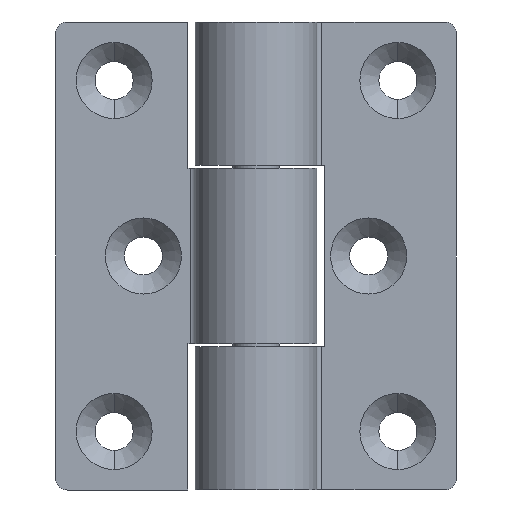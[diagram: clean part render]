
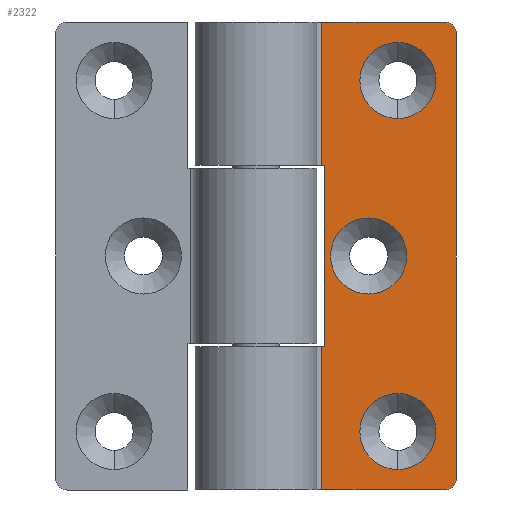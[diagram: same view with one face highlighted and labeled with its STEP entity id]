
A CAD part, front view. The second image highlights one B-rep face of the part: STEP entity #2322.
In plain terms, the highlighted planar face has unit normal (0, -1, 0).
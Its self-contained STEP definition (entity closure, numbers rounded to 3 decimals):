
#19 = DIRECTION ( 'NONE',  ( 0., 0., -1. ) ) ;
#39 = ORIENTED_EDGE ( 'NONE', *, *, #250, .T. ) ;
#70 = CARTESIAN_POINT ( 'NONE',  ( 24.25, 2.9, 16.5 ) ) ;
#91 = CIRCLE ( 'NONE', #2415, 6.5 ) ;
#107 = VERTEX_POINT ( 'NONE', #2433 ) ;
#132 = VECTOR ( 'NONE', #1941, 1000. ) ;
#143 = CARTESIAN_POINT ( 'NONE',  ( 11.241, 2.9, 0. ) ) ;
#164 = ORIENTED_EDGE ( 'NONE', *, *, #1760, .F. ) ;
#175 = EDGE_CURVE ( 'NONE', #963, #607, #776, .T. ) ;
#228 = VERTEX_POINT ( 'NONE', #1623 ) ;
#231 = DIRECTION ( 'NONE',  ( 0., 0., 1. ) ) ;
#250 = EDGE_CURVE ( 'NONE', #790, #1530, #1929, .T. ) ;
#270 = VECTOR ( 'NONE', #19, 1000. ) ;
#275 = LINE ( 'NONE', #1095, #524 ) ;
#279 = VERTEX_POINT ( 'NONE', #1888 ) ;
#280 = CARTESIAN_POINT ( 'NONE',  ( 19.25, 2.9, 40. ) ) ;
#292 = DIRECTION ( 'NONE',  ( 0., 1., 0. ) ) ;
#322 = EDGE_CURVE ( 'NONE', #1433, #963, #275, .T. ) ;
#325 = VERTEX_POINT ( 'NONE', #70 ) ;
#333 = EDGE_CURVE ( 'NONE', #2606, #1767, #2488, .T. ) ;
#407 = ORIENTED_EDGE ( 'NONE', *, *, #175, .T. ) ;
#413 = ORIENTED_EDGE ( 'NONE', *, *, #1618, .F. ) ;
#414 = EDGE_LOOP ( 'NONE', ( #1665, #1574 ) ) ;
#449 = FACE_BOUND ( 'NONE', #1182, .T. ) ;
#463 = LINE ( 'NONE', #2294, #1113 ) ;
#491 = CARTESIAN_POINT ( 'NONE',  ( 24.25, 2.9, 70. ) ) ;
#494 = PLANE ( 'NONE',  #1162 ) ;
#515 = CARTESIAN_POINT ( 'NONE',  ( 32.25, 2.9, 0. ) ) ;
#524 = VECTOR ( 'NONE', #1904, 1000. ) ;
#529 = CARTESIAN_POINT ( 'NONE',  ( 11.241, 2.9, 0. ) ) ;
#600 = AXIS2_PLACEMENT_3D ( 'NONE', #826, #656, #231 ) ;
#601 = CARTESIAN_POINT ( 'NONE',  ( 32.25, 2.9, 78. ) ) ;
#607 = VERTEX_POINT ( 'NONE', #660 ) ;
#627 = CARTESIAN_POINT ( 'NONE',  ( 34.25, 2.9, 55.5 ) ) ;
#640 = CARTESIAN_POINT ( 'NONE',  ( 11.241, 2.9, 0. ) ) ;
#644 = CARTESIAN_POINT ( 'NONE',  ( 24.25, 2.9, 63.5 ) ) ;
#655 = CARTESIAN_POINT ( 'NONE',  ( 34.25, 2.9, 80. ) ) ;
#656 = DIRECTION ( 'NONE',  ( 0., -1., 0. ) ) ;
#660 = CARTESIAN_POINT ( 'NONE',  ( 11.241, 2.9, 24.5 ) ) ;
#696 = DIRECTION ( 'NONE',  ( 0., 0., -1. ) ) ;
#715 = DIRECTION ( 'NONE',  ( 0., 0., -1. ) ) ;
#721 = CIRCLE ( 'NONE', #2581, 6.5 ) ;
#750 = EDGE_CURVE ( 'NONE', #2004, #279, #2350, .T. ) ;
#752 = DIRECTION ( 'NONE',  ( 0., -1., 0. ) ) ;
#754 = EDGE_CURVE ( 'NONE', #1767, #1433, #2447, .T. ) ;
#774 = CARTESIAN_POINT ( 'NONE',  ( 34.25, 2.9, 78. ) ) ;
#776 = LINE ( 'NONE', #2003, #2423 ) ;
#777 = ORIENTED_EDGE ( 'NONE', *, *, #871, .F. ) ;
#790 = VERTEX_POINT ( 'NONE', #515 ) ;
#810 = CARTESIAN_POINT ( 'NONE',  ( 11.65, 2.9, 55.5 ) ) ;
#826 = CARTESIAN_POINT ( 'NONE',  ( 32.25, 2.9, 2. ) ) ;
#847 = EDGE_CURVE ( 'NONE', #279, #2004, #2182, .T. ) ;
#871 = EDGE_CURVE ( 'NONE', #107, #954, #994, .T. ) ;
#954 = VERTEX_POINT ( 'NONE', #1525 ) ;
#963 = VERTEX_POINT ( 'NONE', #1713 ) ;
#994 = CIRCLE ( 'NONE', #2469, 6.5 ) ;
#1050 = VERTEX_POINT ( 'NONE', #143 ) ;
#1054 = VERTEX_POINT ( 'NONE', #774 ) ;
#1070 = CARTESIAN_POINT ( 'NONE',  ( 34.25, 2.9, 80. ) ) ;
#1095 = CARTESIAN_POINT ( 'NONE',  ( 11.65, 2.9, 80. ) ) ;
#1101 = DIRECTION ( 'NONE',  ( 0., -1., 0. ) ) ;
#1110 = DIRECTION ( 'NONE',  ( 0., 0., 1. ) ) ;
#1113 = VECTOR ( 'NONE', #1298, 1000. ) ;
#1124 = EDGE_CURVE ( 'NONE', #1054, #228, #1400, .T. ) ;
#1133 = LINE ( 'NONE', #529, #132 ) ;
#1162 = AXIS2_PLACEMENT_3D ( 'NONE', #1070, #292, #1110 ) ;
#1182 = EDGE_LOOP ( 'NONE', ( #164, #2316 ) ) ;
#1231 = LINE ( 'NONE', #655, #2622 ) ;
#1271 = EDGE_CURVE ( 'NONE', #2606, #228, #1231, .T. ) ;
#1298 = DIRECTION ( 'NONE',  ( 1., 0., 0. ) ) ;
#1306 = ORIENTED_EDGE ( 'NONE', *, *, #333, .T. ) ;
#1340 = ORIENTED_EDGE ( 'NONE', *, *, #1271, .F. ) ;
#1345 = AXIS2_PLACEMENT_3D ( 'NONE', #2358, #2566, #2153 ) ;
#1357 = ORIENTED_EDGE ( 'NONE', *, *, #1607, .T. ) ;
#1367 = AXIS2_PLACEMENT_3D ( 'NONE', #2352, #752, #715 ) ;
#1400 = CIRCLE ( 'NONE', #1789, 2. ) ;
#1433 = VERTEX_POINT ( 'NONE', #810 ) ;
#1448 = DIRECTION ( 'NONE',  ( 1., 0., 0. ) ) ;
#1477 = ORIENTED_EDGE ( 'NONE', *, *, #1124, .T. ) ;
#1509 = DIRECTION ( 'NONE',  ( 0., -1., 0. ) ) ;
#1514 = FACE_BOUND ( 'NONE', #414, .T. ) ;
#1525 = CARTESIAN_POINT ( 'NONE',  ( 19.25, 2.9, 33.5 ) ) ;
#1530 = VERTEX_POINT ( 'NONE', #2412 ) ;
#1559 = AXIS2_PLACEMENT_3D ( 'NONE', #491, #1509, #2112 ) ;
#1574 = ORIENTED_EDGE ( 'NONE', *, *, #847, .F. ) ;
#1576 = CARTESIAN_POINT ( 'NONE',  ( 11.241, 2.9, 55.5 ) ) ;
#1607 = EDGE_CURVE ( 'NONE', #1050, #790, #463, .T. ) ;
#1618 = EDGE_CURVE ( 'NONE', #954, #107, #721, .T. ) ;
#1623 = CARTESIAN_POINT ( 'NONE',  ( 32.25, 2.9, 80. ) ) ;
#1660 = CIRCLE ( 'NONE', #1367, 6.5 ) ;
#1665 = ORIENTED_EDGE ( 'NONE', *, *, #750, .F. ) ;
#1713 = CARTESIAN_POINT ( 'NONE',  ( 11.65, 2.9, 24.5 ) ) ;
#1734 = ORIENTED_EDGE ( 'NONE', *, *, #2417, .F. ) ;
#1741 = CARTESIAN_POINT ( 'NONE',  ( 34.25, 2.9, 80. ) ) ;
#1760 = EDGE_CURVE ( 'NONE', #1800, #325, #1660, .T. ) ;
#1767 = VERTEX_POINT ( 'NONE', #1576 ) ;
#1789 = AXIS2_PLACEMENT_3D ( 'NONE', #601, #2025, #2395 ) ;
#1800 = VERTEX_POINT ( 'NONE', #2179 ) ;
#1858 = DIRECTION ( 'NONE',  ( 1., 0., 0. ) ) ;
#1888 = CARTESIAN_POINT ( 'NONE',  ( 24.25, 2.9, 76.5 ) ) ;
#1904 = DIRECTION ( 'NONE',  ( 0., 0., -1. ) ) ;
#1910 = DIRECTION ( 'NONE',  ( 0., 0., -1. ) ) ;
#1929 = CIRCLE ( 'NONE', #600, 2. ) ;
#1941 = DIRECTION ( 'NONE',  ( 0., 0., -1. ) ) ;
#2003 = CARTESIAN_POINT ( 'NONE',  ( 34.25, 2.9, 24.5 ) ) ;
#2004 = VERTEX_POINT ( 'NONE', #644 ) ;
#2025 = DIRECTION ( 'NONE',  ( 0., -1., 0. ) ) ;
#2075 = DIRECTION ( 'NONE',  ( 0., -1., 0. ) ) ;
#2112 = DIRECTION ( 'NONE',  ( 0., 0., -1. ) ) ;
#2153 = DIRECTION ( 'NONE',  ( 0., 0., -1. ) ) ;
#2173 = EDGE_CURVE ( 'NONE', #607, #1050, #1133, .T. ) ;
#2179 = CARTESIAN_POINT ( 'NONE',  ( 24.25, 2.9, 3.5 ) ) ;
#2182 = CIRCLE ( 'NONE', #1345, 6.5 ) ;
#2189 = DIRECTION ( 'NONE',  ( 0., -1., 0. ) ) ;
#2197 = DIRECTION ( 'NONE',  ( -1., 0., 0. ) ) ;
#2221 = VECTOR ( 'NONE', #1448, 1000. ) ;
#2249 = VECTOR ( 'NONE', #2533, 1000. ) ;
#2269 = CARTESIAN_POINT ( 'NONE',  ( 24.25, 2.9, 10. ) ) ;
#2274 = EDGE_LOOP ( 'NONE', ( #413, #777 ) ) ;
#2281 = DIRECTION ( 'NONE',  ( 0., 0., -1. ) ) ;
#2294 = CARTESIAN_POINT ( 'NONE',  ( 34.25, 2.9, 0. ) ) ;
#2309 = FACE_OUTER_BOUND ( 'NONE', #2414, .T. ) ;
#2316 = ORIENTED_EDGE ( 'NONE', *, *, #2547, .F. ) ;
#2322 = ADVANCED_FACE ( 'NONE', ( #449, #2482, #1514, #2309 ), #494, .F. ) ;
#2350 = CIRCLE ( 'NONE', #1559, 6.5 ) ;
#2352 = CARTESIAN_POINT ( 'NONE',  ( 24.25, 2.9, 10. ) ) ;
#2354 = CARTESIAN_POINT ( 'NONE',  ( 11.241, 2.9, 80. ) ) ;
#2358 = CARTESIAN_POINT ( 'NONE',  ( 24.25, 2.9, 70. ) ) ;
#2362 = LINE ( 'NONE', #1741, #2249 ) ;
#2395 = DIRECTION ( 'NONE',  ( 0., 0., 1. ) ) ;
#2412 = CARTESIAN_POINT ( 'NONE',  ( 34.25, 2.9, 2. ) ) ;
#2414 = EDGE_LOOP ( 'NONE', ( #1734, #1477, #1340, #1306, #2542, #2616, #407, #2614, #1357, #39 ) ) ;
#2415 = AXIS2_PLACEMENT_3D ( 'NONE', #2269, #2075, #2281 ) ;
#2417 = EDGE_CURVE ( 'NONE', #1054, #1530, #2362, .T. ) ;
#2418 = CARTESIAN_POINT ( 'NONE',  ( 19.25, 2.9, 40. ) ) ;
#2423 = VECTOR ( 'NONE', #2197, 1000. ) ;
#2433 = CARTESIAN_POINT ( 'NONE',  ( 19.25, 2.9, 46.5 ) ) ;
#2447 = LINE ( 'NONE', #627, #2221 ) ;
#2469 = AXIS2_PLACEMENT_3D ( 'NONE', #2418, #2189, #696 ) ;
#2482 = FACE_BOUND ( 'NONE', #2274, .T. ) ;
#2488 = LINE ( 'NONE', #640, #270 ) ;
#2533 = DIRECTION ( 'NONE',  ( 0., 0., -1. ) ) ;
#2542 = ORIENTED_EDGE ( 'NONE', *, *, #754, .T. ) ;
#2547 = EDGE_CURVE ( 'NONE', #325, #1800, #91, .T. ) ;
#2566 = DIRECTION ( 'NONE',  ( 0., -1., 0. ) ) ;
#2581 = AXIS2_PLACEMENT_3D ( 'NONE', #280, #1101, #1910 ) ;
#2606 = VERTEX_POINT ( 'NONE', #2354 ) ;
#2614 = ORIENTED_EDGE ( 'NONE', *, *, #2173, .T. ) ;
#2616 = ORIENTED_EDGE ( 'NONE', *, *, #322, .T. ) ;
#2622 = VECTOR ( 'NONE', #1858, 1000. ) ;
